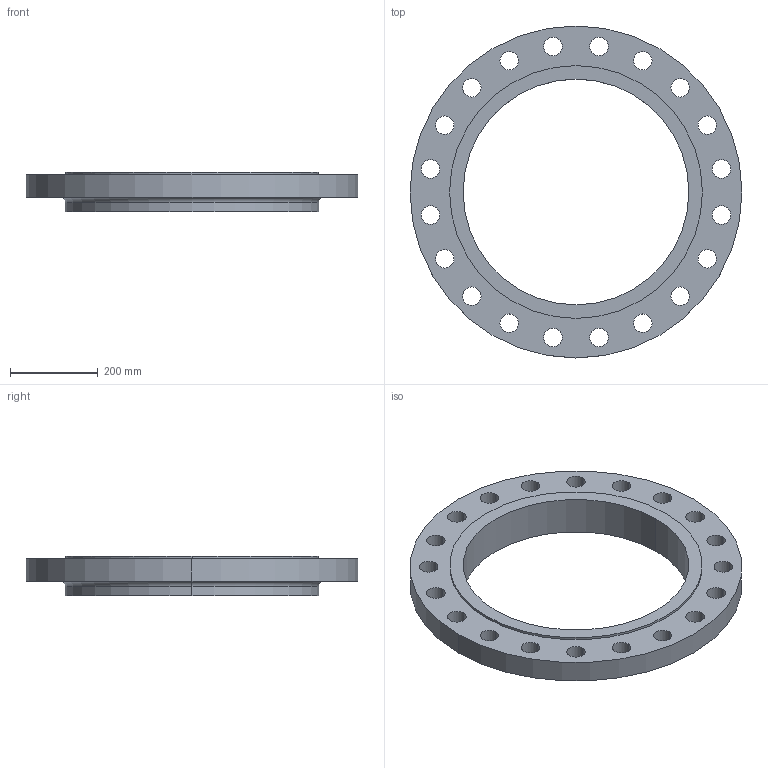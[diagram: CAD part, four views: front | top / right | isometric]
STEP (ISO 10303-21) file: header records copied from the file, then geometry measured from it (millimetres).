
FILE_DESCRIPTION (( 'STEP AP214' ), '1' );
FILE_NAME ('PN40 DN500 Type 12 - Type E Face.STEP', '2018-12-29T01:24:25', ( '' ), ( '' ), 'SwSTEP 2.0', 'SolidWorks 2019', '' );
FILE_SCHEMA (( 'AUTOMOTIVE_DESIGN' ));
Length unit declared in the file: millimetre
Products named in the file (1): PN40 DN500 Type 12 - Type E Face
Bounding box: 755 x 755 x 90 mm (x, y, z)
Volume: 13074423.4 mm3; surface area: 889426.1 mm2
Topology: 1 solids, 1 shells, 54 faces, 148 edges, 98 vertices
Faces by surface type: cylinder 48, plane 4, torus 2
Entity records: 1894 total; most frequent: DIRECTION 358, CARTESIAN_POINT 301, ORIENTED_EDGE 296, AXIS2_PLACEMENT_3D 155, EDGE_CURVE 148, CIRCLE 100, VERTEX_POINT 98, EDGE_LOOP 98
